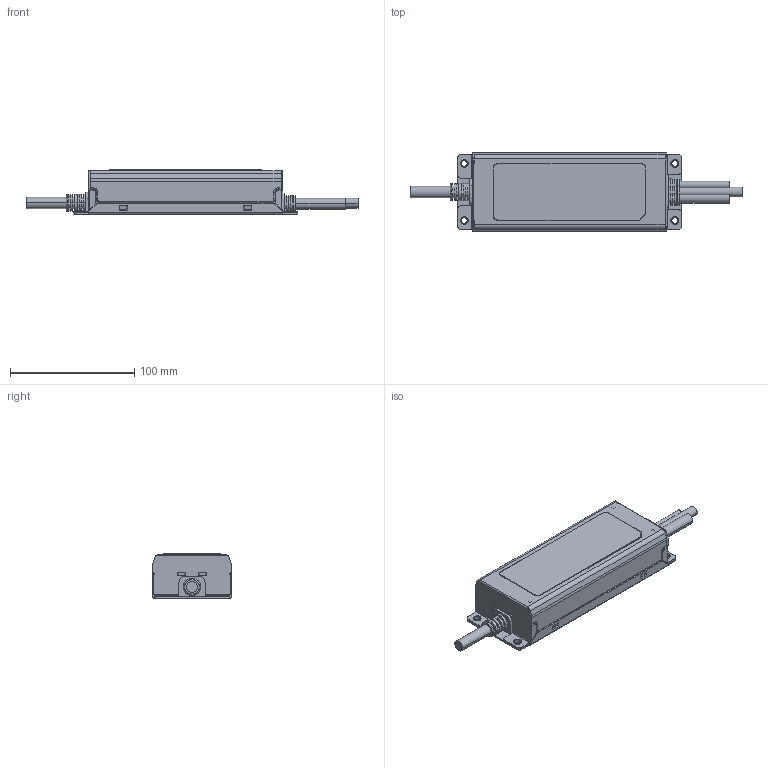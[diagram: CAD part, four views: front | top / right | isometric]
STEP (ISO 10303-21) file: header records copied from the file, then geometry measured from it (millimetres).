
FILE_DESCRIPTION(('Creo Elements/Direct Modeling STEP Export'),'2;1');
FILE_NAME('ELG-75-C.stp','2016-04-07T17:15:22',(''),(''),'PTC Creo Elements/Direct Modeling STEP processor for AP214 (Solid Model)','PTC Creo Elements/Direct Modeling 19.0 09-May-2014 (C) Parametric Technology GmbH','');
FILE_SCHEMA(('AUTOMOTIVE_DESIGN { 1 0 10303 214 1 1 1 1 }'));
Length unit declared in the file: millimetre
Products named in the file (8): 243C-D; 243A-T; CASE; OP2; IP.1.1; op.1.2; WIRE; ELG-75-C
Assembly tree (7 placements, depth 3):
  ELG-75-C
    WIRE
      op.1.2
      IP.1.1
      OP2
    CASE
      243A-T
      243C-D
Bounding box: 266.8 x 63.13 x 35.5 mm (x, y, z)
Volume: 66076.7 mm3; surface area: 90925.8 mm2
Topology: 5 solids, 5 shells, 745 faces, 1956 edges, 1261 vertices
Faces by surface type: plane 408, cylinder 269, torus 50, bspline 10, cone 6, sphere 2
Entity records: 24734 total; most frequent: CARTESIAN_POINT 6592, ORIENTED_EDGE 3908, DIRECTION 3573, EDGE_CURVE 1954, VERTEX_POINT 1261, AXIS2_PLACEMENT_3D 1215, VECTOR 1143, LINE 1143
